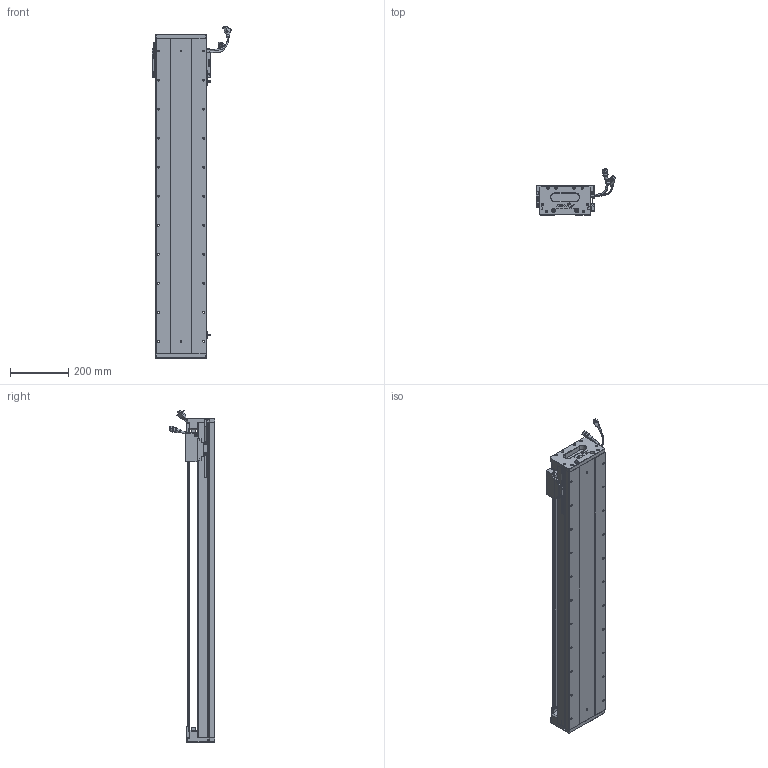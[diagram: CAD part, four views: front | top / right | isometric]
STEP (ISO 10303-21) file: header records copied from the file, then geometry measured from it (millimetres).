
FILE_DESCRIPTION (( 'STEP AP203' ), '1' );
FILE_NAME ('Z1-RY170D-1-L500-B-K.SLDASM_0900.step', '2021-05-17T08:52:10', ( '盈信电脑' ), ( '东莞市道滘镇水果街19号' ), 'SwSTEP 2.0', 'SolidWorks 2016', '' );
FILE_SCHEMA (( 'CONFIG_CONTROL_DESIGN' ));
Length unit declared in the file: millimetre
Products named in the file (36): HARNESS; 覜茼ん672; 140雄赽晤鎢ん堤盄; Z1-RY170臏賑輸(21遴); 080黍杅芛假蚾釱21遴; COVER; SCREW-M1.6-1; SCREW-M1.6; 170-Z-臏賑輸盄裔(21遴); SEAL; HARNESS-Part-2; Z1-RY170D-1-L500-B-K.SLDASM_0900; RY170直线电机感应器672光电感应片; 140蚥薯蝶輸; SCREW-M1.7; PBU_SHEET; SCALE-Part-2; SCREW-M1.6-2; Z-170詩湍傷裔啣; SCALE; Z1-RY170-L500耀郪菁釱_0900; HARNESS-Part-1; SCREW-M1.7-1; SEAL-Part-1; Z-RY170詩湍奻揤裔; LABEL; Z-RY170詩湍狟揤裔; PSLH080_PSLF2; SCALE-Part-1; SHIELDPLATE; SCREW-M1.6-3; 榋妏寠巭燃_暯_M2_2; COVER-Part-1; LABEL-Part-1; HOLDER0; Z1-RY170-L500詩湍145mm遵_0900
Assembly tree (41 placements, depth 4):
  Z1-RY170D-1-L500-B-K.SLDASM_0900
    Z1-RY170-L500耀郪菁釱_0900
    RY170直线电机感应器672光电感应片
    Z1-RY170臏賑輸(21遴)
    覜茼ん672  x3
    PSLH080_PSLF2
      SCALE
        SCALE-Part-1
        SCALE-Part-2
      HARNESS
        HARNESS-Part-1
        HARNESS-Part-2
      LABEL
        LABEL-Part-1
      COVER
        COVER-Part-1
      SEAL
        SEAL-Part-1
      榋妏寠巭燃_暯_M2_2
      SHIELDPLATE
      SCREW-M1.7
      SCREW-M1.7-1
      PBU_SHEET
      SCREW-M1.6
      SCREW-M1.6-1
      SCREW-M1.6-2
      SCREW-M1.6-3
      HOLDER0
    080黍杅芛假蚾釱21遴
    Z1-RY170-L500詩湍145mm遵_0900
    Z-170詩湍傷裔啣  x2
    Z-RY170詩湍奻揤裔  x2
    Z-RY170詩湍狟揤裔  x2
    140蚥薯蝶輸  x2
    170-Z-臏賑輸盄裔(21遴)
    140雄赽晤鎢ん堤盄
Bounding box: 275.34 x 158.11 x 1143.72 mm (x, y, z)
Volume: 6068272.3 mm3; surface area: 1506326.1 mm2
Topology: 36 solids, 36 shells, 2984 faces, 8003 edges, 5035 vertices
Faces by surface type: cylinder 1354, plane 1148, cone 360, torus 69, bspline 53
Entity records: 87555 total; most frequent: CARTESIAN_POINT 22496, ORIENTED_EDGE 12858, DIRECTION 12589, EDGE_CURVE 6429, AXIS2_PLACEMENT_3D 4586, VERTEX_POINT 4153, VECTOR 3417, LINE 3417
